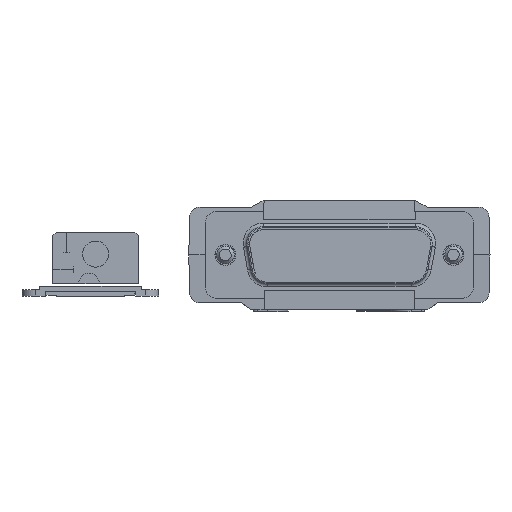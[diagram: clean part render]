
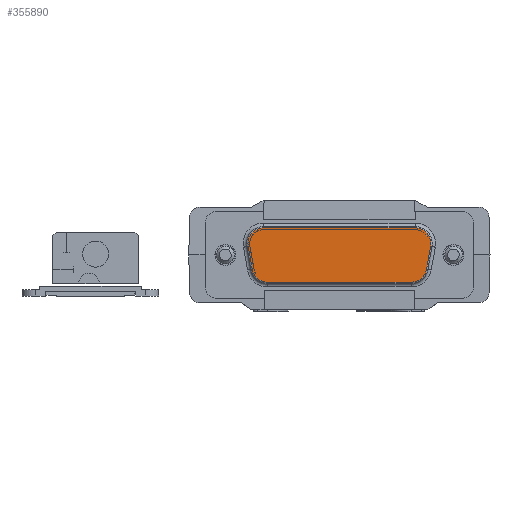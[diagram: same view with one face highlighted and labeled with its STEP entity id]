
A CAD part, left-side view. The second image highlights one B-rep face of the part: STEP entity #355890.
In plain terms, the highlighted planar face has unit normal (-1, 0, 0) as drawn and (1, 0, 0) by its records, which use the part's own axes.
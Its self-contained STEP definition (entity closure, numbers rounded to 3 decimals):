
#272040=CARTESIAN_POINT('',(-10.578,-37.393,
1.67));
#272050=DIRECTION('',(1.,0.,0.));
#272060=DIRECTION('',(0.,-1.,0.));
#272070=AXIS2_PLACEMENT_3D('',#272040,#272050,#272060);
#272080=CIRCLE('',#272070,2.05);
#272090=CARTESIAN_POINT('',(-10.578,-35.374,
2.026));
#272100=VERTEX_POINT('',#272090);
#272110=CARTESIAN_POINT('',(-10.578,-35.653,
2.755));
#272120=VERTEX_POINT('',#272110);
#272130=EDGE_CURVE('',#272100,#272120,#272080,.T.);
#297580=CARTESIAN_POINT('',(-10.578,-58.929,
-3.696));
#297590=VERTEX_POINT('',#297580);
#297640=CARTESIAN_POINT('',(-10.578,-44.902,
-3.696));
#297650=DIRECTION('',(0.,-1.,0.));
#297660=VECTOR('',#297650,1.);
#297670=LINE('',#297640,#297660);
#297680=CARTESIAN_POINT('',(-10.578,-36.819,
-3.696));
#297690=VERTEX_POINT('',#297680);
#297700=EDGE_CURVE('',#297690,#297590,#297670,.T.);
#298080=CARTESIAN_POINT('',(-10.578,-60.669,
-2.73));
#298090=VERTEX_POINT('',#298080);
#298120=CARTESIAN_POINT('',(-10.578,-58.929,
-1.646));
#298130=DIRECTION('',(1.,0.,0.));
#298140=DIRECTION('',(0.,-1.,0.));
#298150=AXIS2_PLACEMENT_3D('',#298120,#298130,#298140);
#298160=CIRCLE('',#298150,2.05);
#298170=EDGE_CURVE('',#298090,#297590,#298160,.T.);
#350430=CARTESIAN_POINT('',(-10.578,-34.8,
-1.29));
#350440=VERTEX_POINT('',#350430);
#350570=CARTESIAN_POINT('',(-10.578,-36.819,
-1.646));
#350580=DIRECTION('',(1.,0.,0.));
#350590=DIRECTION('',(0.,-1.,0.));
#350600=AXIS2_PLACEMENT_3D('',#350570,#350580,#350590);
#350610=CIRCLE('',#350600,2.05);
#350620=EDGE_CURVE('',#297690,#350440,#350610,.T.);
#353420=CARTESIAN_POINT('',(-10.578,-35.389,
2.05));
#353430=VERTEX_POINT('',#353420);
#353550=CARTESIAN_POINT('',(-10.578,-34.8,
-1.29));
#353560=DIRECTION('',(0.,-0.174,
0.985));
#353570=VECTOR('',#353560,1.);
#353580=LINE('',#353550,#353570);
#353590=EDGE_CURVE('',#350440,#353430,#353580,.T.);
#354120=CARTESIAN_POINT('',(-10.578,-34.785,
-1.314));
#354130=VERTEX_POINT('',#354120);
#354160=CARTESIAN_POINT('',(-10.578,-36.804,
-1.67));
#354170=DIRECTION('',(1.,0.,0.));
#354180=DIRECTION('',(0.,-1.,0.));
#354190=AXIS2_PLACEMENT_3D('',#354160,#354170,#354180);
#354200=CIRCLE('',#354190,2.05);
#354210=CARTESIAN_POINT('',(-10.578,-36.804,
-3.72));
#354220=VERTEX_POINT('',#354210);
#354230=EDGE_CURVE('',#354220,#354130,#354200,.T.);
#354480=CARTESIAN_POINT('',(-10.578,-36.128,
6.3));
#354490=DIRECTION('',(0.,-0.174,
0.985));
#354500=VECTOR('',#354490,1.);
#354510=LINE('',#354480,#354500);
#354520=EDGE_CURVE('',#354130,#272100,#354510,.T.);
#354710=CARTESIAN_POINT('',(-10.578,-37.408,
1.694));
#354720=DIRECTION('',(1.,0.,0.));
#354730=DIRECTION('',(0.,-1.,0.));
#354740=AXIS2_PLACEMENT_3D('',#354710,#354720,#354730);
#354750=CIRCLE('',#354740,2.05);
#354760=EDGE_CURVE('',#353430,#272120,#354750,.T.);
#354890=CARTESIAN_POINT('',(-10.578,-29.244,
6.3));
#354900=DIRECTION('',(1.,0.,0.));
#354910=DIRECTION('',(0.,-1.,0.));
#354920=AXIS2_PLACEMENT_3D('',#354890,#354900,#354910);
#354930=PLANE('',#354920);
#354940=ORIENTED_EDGE('',*,*,#354760,.T.);
#354950=ORIENTED_EDGE('',*,*,#353590,.T.);
#354960=ORIENTED_EDGE('',*,*,#350620,.T.);
#354970=ORIENTED_EDGE('',*,*,#297700,.F.);
#354980=ORIENTED_EDGE('',*,*,#298170,.T.);
#354990=CARTESIAN_POINT('',(-10.578,-58.914,
-1.67));
#355000=DIRECTION('',(1.,0.,0.));
#355010=DIRECTION('',(0.,-1.,0.));
#355020=AXIS2_PLACEMENT_3D('',#354990,#355000,#355010);
#355030=CIRCLE('',#355020,2.05);
#355040=CARTESIAN_POINT('',(-10.578,-58.914,
-3.72));
#355050=VERTEX_POINT('',#355040);
#355060=EDGE_CURVE('',#298090,#355050,#355030,.T.);
#355070=ORIENTED_EDGE('',*,*,#355060,.F.);
#355080=CARTESIAN_POINT('',(-10.578,-37.574,
-3.72));
#355090=DIRECTION('',(0.,1.,0.));
#355100=VECTOR('',#355090,1.);
#355110=LINE('',#355080,#355100);
#355120=EDGE_CURVE('',#355050,#354220,#355110,.T.);
#355130=ORIENTED_EDGE('',*,*,#355120,.F.);
#355140=ORIENTED_EDGE('',*,*,#354230,.F.);
#355150=ORIENTED_EDGE('',*,*,#354520,.F.);
#355160=ORIENTED_EDGE('',*,*,#272130,.F.);
#355170=EDGE_LOOP('',(#355160,#355150,#355140,#355130,#355070,#354980,
#354970,#354960,#354950,#354940));
#355180=FACE_BOUND('',#355170,.T.);
#355190=CARTESIAN_POINT('',(-10.578,-37.393,
1.67));
#355200=DIRECTION('',(1.,0.,0.));
#355210=DIRECTION('',(0.,-1.,0.));
#355220=AXIS2_PLACEMENT_3D('',#355190,#355200,#355210);
#355230=CIRCLE('',#355220,2.3);
#355240=CARTESIAN_POINT('',(-10.578,-35.128,
2.069));
#355250=VERTEX_POINT('',#355240);
#355260=CARTESIAN_POINT('',(-10.578,-37.393,
3.97));
#355270=VERTEX_POINT('',#355260);
#355280=EDGE_CURVE('',#355250,#355270,#355230,.T.);
#355290=ORIENTED_EDGE('',*,*,#355280,.T.);
#355300=CARTESIAN_POINT('',(-10.578,-35.874,
6.3));
#355310=DIRECTION('',(0.,-0.174,
0.985));
#355320=VECTOR('',#355310,1.);
#355330=LINE('',#355300,#355320);
#355340=CARTESIAN_POINT('',(-10.578,-34.539,
-1.271));
#355350=VERTEX_POINT('',#355340);
#355360=EDGE_CURVE('',#355350,#355250,#355330,.T.);
#355370=ORIENTED_EDGE('',*,*,#355360,.T.);
#355380=CARTESIAN_POINT('',(-10.578,-36.804,
-1.67));
#355390=DIRECTION('',(1.,0.,0.));
#355400=DIRECTION('',(0.,-1.,0.));
#355410=AXIS2_PLACEMENT_3D('',#355380,#355390,#355400);
#355420=CIRCLE('',#355410,2.3);
#355430=CARTESIAN_POINT('',(-10.578,-36.804,
-3.97));
#355440=VERTEX_POINT('',#355430);
#355450=EDGE_CURVE('',#355440,#355350,#355420,.T.);
#355460=ORIENTED_EDGE('',*,*,#355450,.T.);
#355470=CARTESIAN_POINT('',(-10.578,-37.574,
-3.97));
#355480=DIRECTION('',(0.,-1.,0.));
#355490=VECTOR('',#355480,1.);
#355500=LINE('',#355470,#355490);
#355510=CARTESIAN_POINT('',(-10.578,-58.914,
-3.97));
#355520=VERTEX_POINT('',#355510);
#355530=EDGE_CURVE('',#355440,#355520,#355500,.T.);
#355540=ORIENTED_EDGE('',*,*,#355530,.F.);
#355550=CARTESIAN_POINT('',(-10.578,-58.914,
-1.67));
#355560=DIRECTION('',(1.,0.,0.));
#355570=DIRECTION('',(0.,-1.,0.));
#355580=AXIS2_PLACEMENT_3D('',#355550,#355560,#355570);
#355590=CIRCLE('',#355580,2.3);
#355600=CARTESIAN_POINT('',(-10.578,-61.179,
-1.271));
#355610=VERTEX_POINT('',#355600);
#355620=EDGE_CURVE('',#355610,#355520,#355590,.T.);
#355630=ORIENTED_EDGE('',*,*,#355620,.T.);
#355640=CARTESIAN_POINT('',(-10.578,-59.844,
6.3));
#355650=DIRECTION('',(0.,0.174,
0.985));
#355660=VECTOR('',#355650,1.);
#355670=LINE('',#355640,#355660);
#355680=CARTESIAN_POINT('',(-10.578,-60.59,
2.069));
#355690=VERTEX_POINT('',#355680);
#355700=EDGE_CURVE('',#355610,#355690,#355670,.T.);
#355710=ORIENTED_EDGE('',*,*,#355700,.F.);
#355720=CARTESIAN_POINT('',(-10.578,-58.325,
1.67));
#355730=DIRECTION('',(1.,0.,0.));
#355740=DIRECTION('',(0.,-1.,0.));
#355750=AXIS2_PLACEMENT_3D('',#355720,#355730,#355740);
#355760=CIRCLE('',#355750,2.3);
#355770=CARTESIAN_POINT('',(-10.578,-58.325,
3.97));
#355780=VERTEX_POINT('',#355770);
#355790=EDGE_CURVE('',#355780,#355690,#355760,.T.);
#355800=ORIENTED_EDGE('',*,*,#355790,.T.);
#355810=CARTESIAN_POINT('',(-10.578,-29.244,
3.97));
#355820=DIRECTION('',(0.,-1.,0.));
#355830=VECTOR('',#355820,1.);
#355840=LINE('',#355810,#355830);
#355850=EDGE_CURVE('',#355270,#355780,#355840,.T.);
#355860=ORIENTED_EDGE('',*,*,#355850,.T.);
#355870=EDGE_LOOP('',(#355860,#355800,#355710,#355630,#355540,#355460,
#355370,#355290));
#355880=FACE_OUTER_BOUND('',#355870,.T.);
#355890=ADVANCED_FACE('',(#355180,#355880),#354930,.T.);
